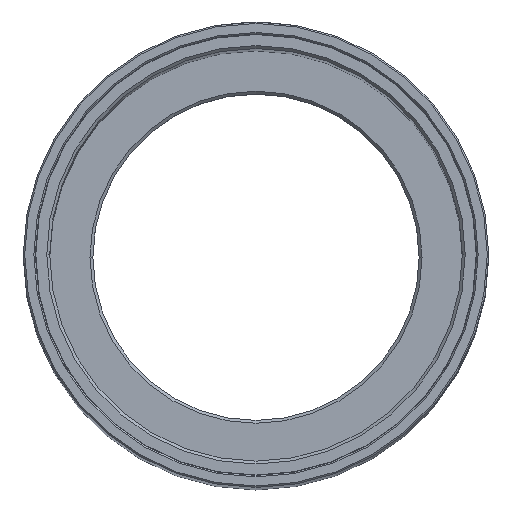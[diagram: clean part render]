
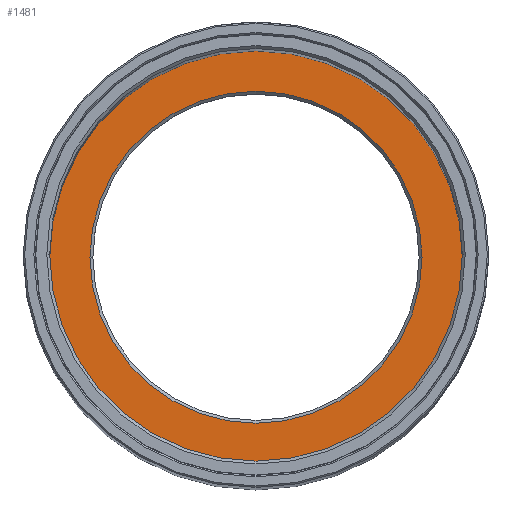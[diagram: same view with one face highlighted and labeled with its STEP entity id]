
A CAD part, top view. The second image highlights one B-rep face of the part: STEP entity #1481.
In plain terms, the highlighted planar face has unit normal (0, 0, 1).
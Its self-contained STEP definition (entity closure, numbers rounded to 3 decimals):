
#2 = CARTESIAN_POINT ( 'NONE',  ( 34.6, 0., 53.3 ) ) ;
#72 = ORIENTED_EDGE ( 'NONE', *, *, #193, .T. ) ;
#89 = CARTESIAN_POINT ( 'NONE',  ( -34.6, 0., 53.3 ) ) ;
#136 = ORIENTED_EDGE ( 'NONE', *, *, #1120, .T. ) ;
#171 = DIRECTION ( 'NONE',  ( 0., 0., -1. ) ) ;
#193 = EDGE_CURVE ( 'NONE', #485, #804, #1012, .T. ) ;
#346 = DIRECTION ( 'NONE',  ( 1., 0., 0. ) ) ;
#348 = EDGE_LOOP ( 'NONE', ( #136, #72 ) ) ;
#376 = DIRECTION ( 'NONE',  ( 0., 0., -1. ) ) ;
#470 = CARTESIAN_POINT ( 'NONE',  ( -43.5, 0., 53.3 ) ) ;
#485 = VERTEX_POINT ( 'NONE', #470 ) ;
#490 = PLANE ( 'NONE',  #1479 ) ;
#525 = DIRECTION ( 'NONE',  ( -1., 0., 0. ) ) ;
#531 = ORIENTED_EDGE ( 'NONE', *, *, #1474, .T. ) ;
#611 = EDGE_CURVE ( 'NONE', #1353, #863, #1392, .T. ) ;
#620 = DIRECTION ( 'NONE',  ( 1., 0., 0. ) ) ;
#699 = FACE_OUTER_BOUND ( 'NONE', #348, .T. ) ;
#709 = CARTESIAN_POINT ( 'NONE',  ( 0., 0., 53.3 ) ) ;
#731 = DIRECTION ( 'NONE',  ( 0., 0., -1. ) ) ;
#741 = CARTESIAN_POINT ( 'NONE',  ( 0., 0., 53.3 ) ) ;
#804 = VERTEX_POINT ( 'NONE', #1321 ) ;
#863 = VERTEX_POINT ( 'NONE', #2 ) ;
#893 = CIRCLE ( 'NONE', #1194, 43.5 ) ;
#903 = EDGE_LOOP ( 'NONE', ( #531, #1138 ) ) ;
#960 = AXIS2_PLACEMENT_3D ( 'NONE', #709, #1090, #346 ) ;
#967 = CARTESIAN_POINT ( 'NONE',  ( 0., 0., 53.3 ) ) ;
#1012 = CIRCLE ( 'NONE', #960, 43.5 ) ;
#1075 = DIRECTION ( 'NONE',  ( -1., 0., 0. ) ) ;
#1084 = DIRECTION ( 'NONE',  ( 0., 0., 1. ) ) ;
#1089 = DIRECTION ( 'NONE',  ( -1., 0., 0. ) ) ;
#1090 = DIRECTION ( 'NONE',  ( 0., 0., 1. ) ) ;
#1120 = EDGE_CURVE ( 'NONE', #804, #485, #893, .T. ) ;
#1138 = ORIENTED_EDGE ( 'NONE', *, *, #611, .T. ) ;
#1194 = AXIS2_PLACEMENT_3D ( 'NONE', #741, #1084, #620 ) ;
#1298 = CARTESIAN_POINT ( 'NONE',  ( 0., 34., 53.3 ) ) ;
#1321 = CARTESIAN_POINT ( 'NONE',  ( 43.5, 0., 53.3 ) ) ;
#1348 = CIRCLE ( 'NONE', #1401, 34.6 ) ;
#1353 = VERTEX_POINT ( 'NONE', #89 ) ;
#1392 = CIRCLE ( 'NONE', #1565, 34.6 ) ;
#1401 = AXIS2_PLACEMENT_3D ( 'NONE', #967, #376, #1089 ) ;
#1474 = EDGE_CURVE ( 'NONE', #863, #1353, #1348, .T. ) ;
#1479 = AXIS2_PLACEMENT_3D ( 'NONE', #1298, #731, #1075 ) ;
#1481 = ADVANCED_FACE ( 'NONE', ( #1564, #699 ), #490, .F. ) ;
#1495 = CARTESIAN_POINT ( 'NONE',  ( 0., 0., 53.3 ) ) ;
#1564 = FACE_BOUND ( 'NONE', #903, .T. ) ;
#1565 = AXIS2_PLACEMENT_3D ( 'NONE', #1495, #171, #525 ) ;
